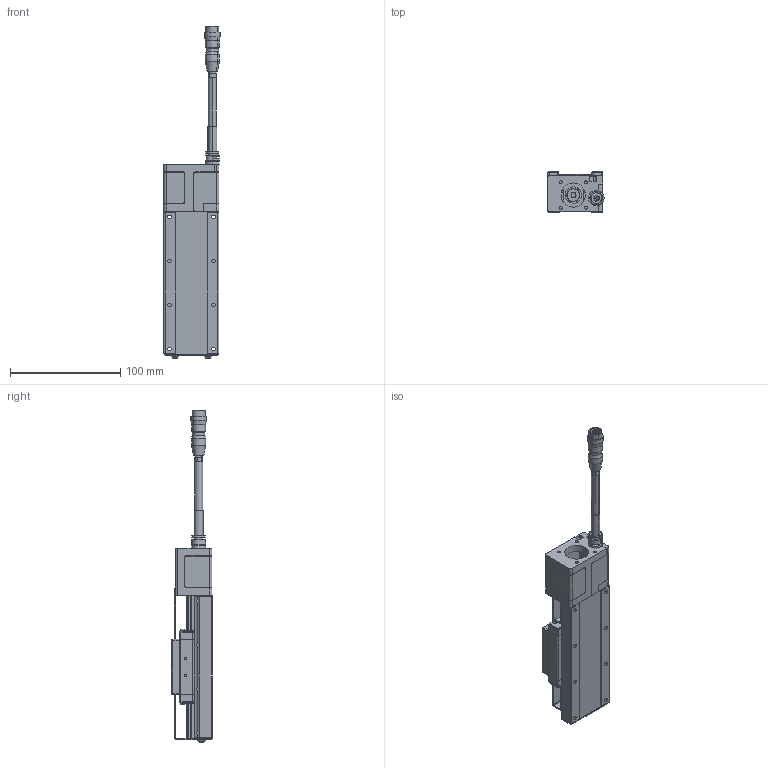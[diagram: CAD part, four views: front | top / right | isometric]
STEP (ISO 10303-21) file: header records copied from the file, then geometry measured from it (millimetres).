
FILE_DESCRIPTION (( 'STEP AP203' ), '1' );
FILE_NAME ('CXC5050-S2?N-(28框無馬達).', '2024-01-05T02:45:11', ( '' ), ( '' ), 'SwSTEP 2.0', 'SolidWorks 2019', '' );
FILE_SCHEMA (( 'CONFIG_CONTROL_DESIGN' ));
Length unit declared in the file: millimetre
Products named in the file (9): HR10A-10J-12P_帶線示意; CXC5050-S2?N-(28框無馬達); SD04B006_SD04B006-SCM435(化鎳); CXC50-102-10; SC03B008_SUS304(鍍鋅黑); Group3^CXC5050-S2?N(28框無馬達)_defeature_GMT; SG02B004_SCM435(化鎳); Group4^CXC5050-S2?N(28框無馬達)_defeature_GMT; CXC5050-S2OPAN-303_50
Assembly tree (14 placements, depth 2):
  CXC5050-S2?N-(28框無馬達)
    Group3^CXC5050-S2?N(28框無馬達)_defeature_GMT
    Group4^CXC5050-S2?N(28框無馬達)_defeature_GMT
    SD04B006_SD04B006-SCM435(化鎳)  x2
    CXC50-102-10  x2
    SG02B004_SCM435(化鎳)  x2
    CXC5050-S2OPAN-303_50
    SC03B008_SUS304(鍍鋅黑)  x4
    HR10A-10J-12P_帶線示意
Bounding box: 50.98 x 37 x 301.7 mm (x, y, z)
Volume: 46861.1 mm3; surface area: 90210.1 mm2
Topology: 14 solids, 18 shells, 2805 faces, 7171 edges, 4249 vertices
Faces by surface type: plane 1102, cylinder 932, cone 213, torus 204, bspline 182, sphere 172
Entity records: 84481 total; most frequent: CARTESIAN_POINT 21289, DIRECTION 13418, ORIENTED_EDGE 12934, EDGE_CURVE 6467, AXIS2_PLACEMENT_3D 5045, VERTEX_POINT 3926, VECTOR 3328, LINE 3328
